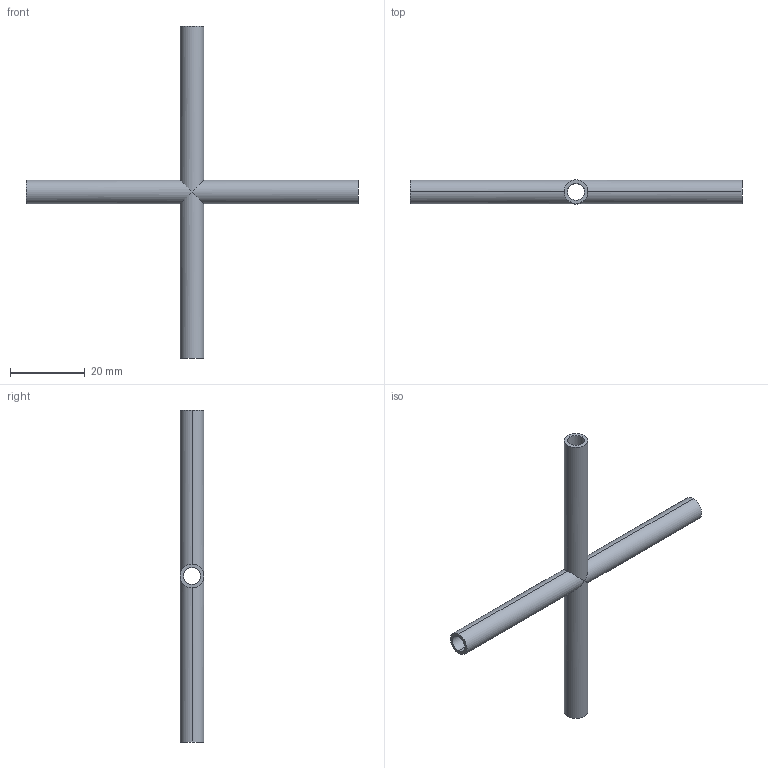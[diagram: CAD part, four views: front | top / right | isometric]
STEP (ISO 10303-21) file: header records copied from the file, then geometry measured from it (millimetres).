
FILE_DESCRIPTION (( 'STEP AP214' ), '1' );
FILE_NAME ('TE9WWWW6L.25-...STEP', '2016-05-22T04:53:49', ( 'eran' ), ( '' ), 'SwSTEP 2.0', 'SolidWorks 2016', '' );
FILE_SCHEMA (( 'AUTOMOTIVE_DESIGN' ));
Length unit declared in the file: millimetre
Products named in the file (1): TE9WWWW6L.25-..
Bounding box: 88.9 x 6.35 x 88.9 mm (x, y, z)
Volume: 2604.8 mm3; surface area: 5916.9 mm2
Topology: 1 solids, 1 shells, 20 faces, 48 edges, 28 vertices
Faces by surface type: cylinder 16, plane 4
Entity records: 618 total; most frequent: CARTESIAN_POINT 145, ORIENTED_EDGE 96, DIRECTION 90, EDGE_CURVE 48, AXIS2_PLACEMENT_3D 37, VERTEX_POINT 28, EDGE_LOOP 24, ADVANCED_FACE 20
